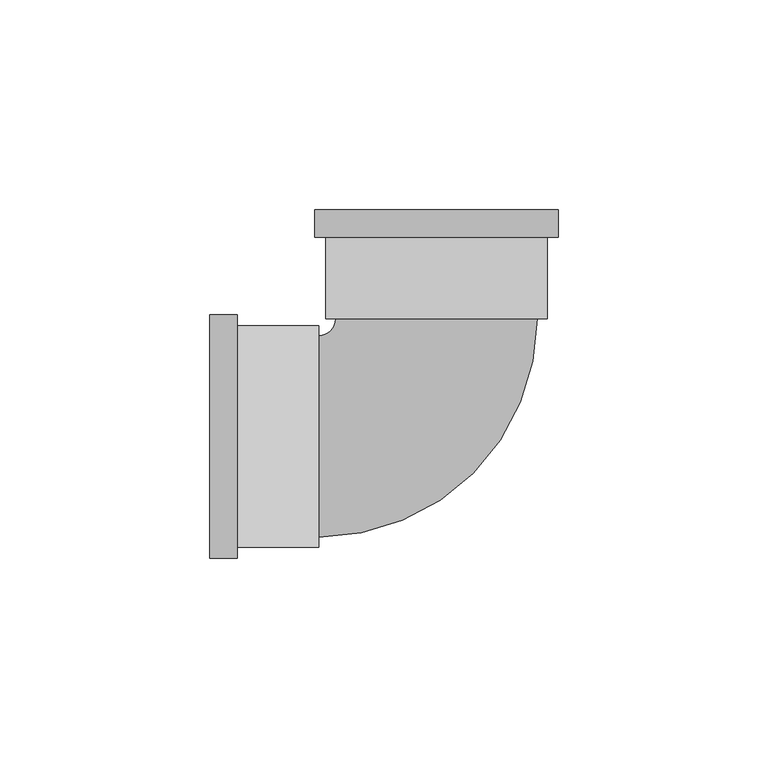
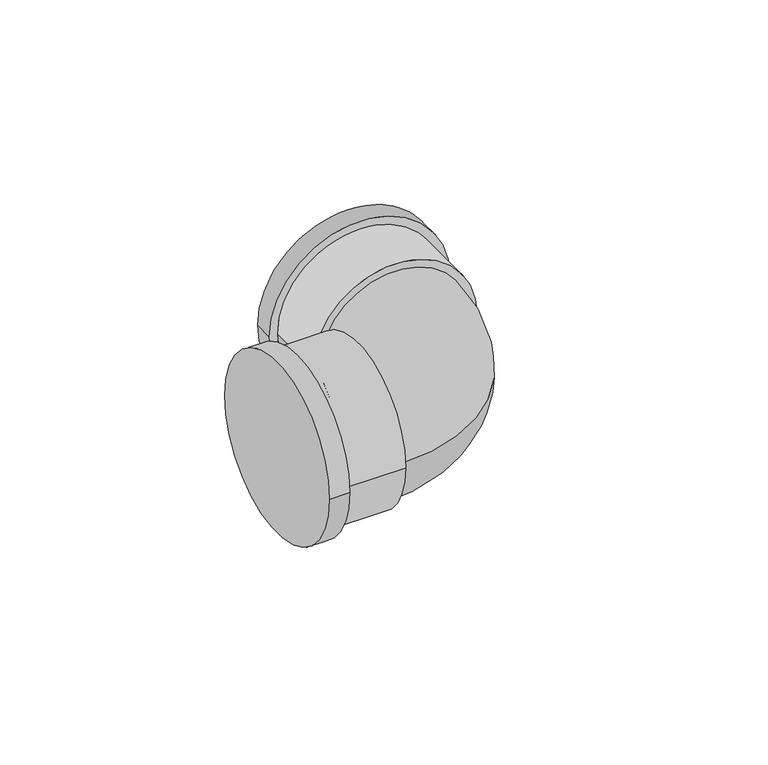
"""IFC4 building model written with IfcOpenShell, lengths in millimetres: pipe fitting geometry, Cotovelo - PVC - CW : Padrão."""

from ifc_helpers import new_model, si_unit, point, frame, origin, place, context, project, spatial, circle_curve, ellipse_curve, trimmed, source, transform, mapped, element, save
from ifc_brep_helpers import plane_surface, cylinder_surface, revolved_surface, advanced_brep


def pipe_fitting_f1283f0f(model_context):
    return source(origin(), model_context, "Body", "AdvancedBrep", [
        advanced_brep(
        [(-53.9973721, -29.04, 0.0), (-53.9973721, 29.04, 0.0), (-47.4973721, -29.04, 0.0), (-47.4973721, 29.04, 0.0), (-47.4973721, -26.4, 0.0), (-47.4973721, 26.4, 0.0), (-27.9973721, 26.4, 0.0), (-27.9973721, -26.4, 0.0), (-27.9973721, -24.0, 0.0), (-27.9973721, 24.0, 0.0), (-23.9973721, 27.9996246, 0.0), (24.0026276, 27.9951194, 0.0), (26.4026276, 27.9948942, 0.0), (-26.3973721, 27.9998498, 0.0), (-29.0349318, 54.0000975, 0.0), (29.0450679, 53.9946463, 0.0), (26.4044578, 47.4948941, 0.0), (-26.3955419, 47.4998497, 0.0), (-29.0355419, 47.5000975, 0.0), (29.0444578, 47.4946463, 0.0)],
        [
            (0, 1, circle_curve(frame((-53.9973721, 0.0, 0.0), z_axis=(-1.0, 0.0, 0.0), x_axis=(0.0, 1.0, 0.0)), 29.04)),
            (1, 0, circle_curve(frame((-53.9973721, 0.0, 0.0), z_axis=(-1.0, 0.0, 0.0), x_axis=(0.0, 1.0, 0.0)), 29.04)),
            (2, 3, circle_curve(frame((-47.4973721, 0.0, 0.0), z_axis=(1.0, 0.0, 0.0), x_axis=(0.0, 1.0, 0.0)), 29.04)),
            (3, 2, circle_curve(frame((-47.4973721, 0.0, 0.0), z_axis=(1.0, 0.0, 0.0), x_axis=(0.0, 1.0, 0.0)), 29.04)),
            (4, 5, circle_curve(frame((-47.4973721, 0.0, 0.0), z_axis=(-1.0, 0.0, 0.0), x_axis=(0.0, -1.0, 0.0)), 26.4)),
            (5, 4, circle_curve(frame((-47.4973721, 0.0, 0.0), z_axis=(-1.0, 0.0, 0.0), x_axis=(0.0, -1.0, 0.0)), 26.4)),
            (0, 2),
            (3, 1),
            (6, 7, circle_curve(frame((-27.9973721, 0.0, 0.0), z_axis=(1.0, 0.0, 0.0), x_axis=(0.0, -1.0, 0.0)), 26.4)),
            (7, 6, circle_curve(frame((-27.9973721, 0.0, 0.0), z_axis=(1.0, 0.0, 0.0), x_axis=(0.0, -1.0, 0.0)), 26.4)),
            (8, 9, circle_curve(frame((-27.9973721, 0.0, 0.0), z_axis=(-1.0, 0.0, 0.0), x_axis=(0.0, 1.0, 0.0)), 24.0)),
            (9, 8, circle_curve(frame((-27.9973721, 0.0, 0.0), z_axis=(-1.0, 0.0, 0.0), x_axis=(0.0, 1.0, 0.0)), 24.0)),
            (6, 5),
            (4, 7),
            (10, 9, circle_curve(frame((-27.9973721, 28.0, 0.0), z_axis=(0.0, 0.0, -1.0), x_axis=(0.0, -1.0, 0.0)), 4.0)),
            (8, 11, circle_curve(frame((-27.9973721, 28.0, 0.0), z_axis=(0.0, 0.0, 1.0), x_axis=(0.0, -1.0, 0.0)), 52.0)),
            (11, 10, circle_curve(frame((0.0026278, 27.997372, 0.0), z_axis=(-9.385706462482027e-05, -0.9999999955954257, 0.0), x_axis=(-0.9999999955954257, 9.385706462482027e-05, 0.0)), 24.0)),
            (10, 11, circle_curve(frame((0.0026278, 27.997372, 0.0), z_axis=(-9.385706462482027e-05, -0.9999999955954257, 0.0), x_axis=(-0.9999999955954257, 9.385706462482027e-05, 0.0)), 24.0)),
            (12, 13, circle_curve(frame((0.0026278, 27.997372, 0.0), z_axis=(-9.385706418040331e-05, -0.9999999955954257, 0.0), x_axis=(-0.9999999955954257, 9.385706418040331e-05, 0.0)), 26.4)),
            (13, 12, circle_curve(frame((0.0026278, 27.997372, 0.0), z_axis=(-9.385706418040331e-05, -0.9999999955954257, 0.0), x_axis=(-0.9999999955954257, 9.385706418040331e-05, 0.0)), 26.4)),
            (14, 15, circle_curve(frame((0.005068, 53.9973719, 0.0), z_axis=(9.385706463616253e-05, 0.9999999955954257, 0.0), x_axis=(0.9999999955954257, -9.385706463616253e-05, 0.0)), 29.04)),
            (15, 14, circle_curve(frame((0.005068, 53.9973719, 0.0), z_axis=(9.385706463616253e-05, 0.9999999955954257, 0.0), x_axis=(0.9999999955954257, -9.385706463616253e-05, 0.0)), 29.04)),
            (12, 16),
            (16, 17, circle_curve(frame((0.004458, 47.4973719, 0.0), z_axis=(-9.385706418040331e-05, -0.9999999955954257, 0.0), x_axis=(-0.9999999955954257, 9.385706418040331e-05, 0.0)), 26.4)),
            (17, 13),
            (17, 16, circle_curve(frame((0.004458, 47.4973719, 0.0), z_axis=(-9.385706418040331e-05, -0.9999999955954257, 0.0), x_axis=(-0.9999999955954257, 9.385706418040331e-05, 0.0)), 26.4)),
            (18, 19, circle_curve(frame((0.004458, 47.4973719, 0.0), z_axis=(-9.385706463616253e-05, -0.9999999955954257, 0.0), x_axis=(0.9999999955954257, -9.385706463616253e-05, 0.0)), 29.04)),
            (19, 18, circle_curve(frame((0.004458, 47.4973719, 0.0), z_axis=(-9.385706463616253e-05, -0.9999999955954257, 0.0), x_axis=(0.9999999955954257, -9.385706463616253e-05, 0.0)), 29.04)),
            (14, 18),
            (19, 15),
        ],
        [
            plane_surface(frame((-53.9973721, 0.0, 0.0), z_axis=(-1.0, 0.0, 0.0), x_axis=(0.0, 0.0, 1.0))),
            plane_surface(frame((-47.4973721, 0.0, 0.0), z_axis=(1.0, 0.0, 0.0), x_axis=(0.0, 0.0, 1.0))),
            cylinder_surface(frame((-53.9973721, 0.0, 0.0), z_axis=(-1.0, 0.0, 0.0), x_axis=(0.0, 1.0, 0.0)), 29.04),
            plane_surface(frame((-27.9973721, 0.0, 0.0), z_axis=(1.0, 0.0, 0.0), x_axis=(0.0, 0.0, 1.0))),
            cylinder_surface(frame((-27.9973721, 0.0, 0.0), z_axis=(1.0, 0.0, 0.0), x_axis=(0.0, -1.0, 0.0)), 26.4),
            revolved_surface(trimmed(ellipse_curve(frame((-27.9973721, 0.0, 0.0), z_axis=(-1.0, 0.0, 0.0), x_axis=(0.0, 1.0, 0.0)), 24.0, 24.0), [point((-27.9973721, -24.0, 0.0))], [point((-27.9973721, 24.0, 0.0))], True, "CARTESIAN"), (-27.9973721, 28.0, 0.0), (0.0, 0.0, 1.0)),
            revolved_surface(trimmed(ellipse_curve(frame((-27.9973721, 0.0, 0.0), z_axis=(-1.0, 0.0, 0.0), x_axis=(0.0, 1.0, 0.0)), 24.0, 24.0), [point((-27.9973721, 24.0, 0.0))], [point((-27.9973721, -24.0, 0.0))], True, "CARTESIAN"), (-27.9973721, 28.0, 0.0), (0.0, 0.0, 1.0)),
            plane_surface(frame((0.0026278, 27.997372, 0.0), z_axis=(-9.385706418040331e-05, -0.9999999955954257, 0.0), x_axis=(0.0, 0.0, 1.0))),
            plane_surface(frame((0.005068, 53.9973719, 0.0), z_axis=(9.385706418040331e-05, 0.9999999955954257, 0.0), x_axis=(0.0, 0.0, 1.0))),
            cylinder_surface(frame((0.0026278, 27.997372, 0.0), z_axis=(-9.385706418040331e-05, -0.9999999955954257, 0.0), x_axis=(-0.9999999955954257, 9.385706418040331e-05, 0.0)), 26.4),
            plane_surface(frame((0.004458, 47.4973719, 0.0), z_axis=(-9.385706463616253e-05, -0.9999999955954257, 0.0), x_axis=(0.0, 0.0, 1.0))),
            cylinder_surface(frame((0.005068, 53.9973719, 0.0), z_axis=(9.385706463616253e-05, 0.9999999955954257, 0.0), x_axis=(0.9999999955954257, -9.385706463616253e-05, 0.0)), 29.04),
        ],
        [
            (0, [[1, 2]]),
            (1, [[3, 4], [5, 6]]),
            (2, [[-1, 7, -4, 8]]),
            (2, [[-2, -8, -3, -7]]),
            (3, [[9, 10], [11, 12]]),
            (4, [[-9, 13, -5, 14]]),
            (4, [[-10, -14, -6, -13]]),
            (5, [[15, -11, 16, 17]]),
            (6, [[-15, 18, -16, -12]]),
            (7, [[19, 20], [-17, -18]]),
            (8, [[21, 22]]),
            (9, [[-19, 23, 24, 25]]),
            (9, [[-20, -25, 26, -23]]),
            (10, [[27, 28], [-24, -26]]),
            (11, [[-21, 29, -28, 30]]),
            (11, [[-22, -30, -27, -29]]),
        ],
    ),
    ])


if __name__ == "__main__":
    model = new_model("IFC4")
    model_context = context("Model", 3, world=origin())
    ifc_project = project(units=[si_unit("LENGTHUNIT", "METRE", prefix="MILLI")], contexts=[model_context])
    site = spatial("IfcSite", under=ifc_project)
    building = spatial("IfcBuilding", under=site)
    placement = place(None, origin())
    pipe_fitting_shape = pipe_fitting_f1283f0f(model_context)
    element("IfcPipeFitting", 1, ObjectType="Cotovelo - PVC - CW : Padrão", at=placement, inside=building, context=model_context, shape_type="MappedRepresentation", body=[
        mapped(pipe_fitting_shape, transform((0.0, 0.0, 0.0), x_axis=(1.0, 0.0, 0.0), y_axis=(0.0, 1.0, 0.0), z_axis=(0.0, 0.0, 1.0))),
    ])
    save(model, "model.ifc")
